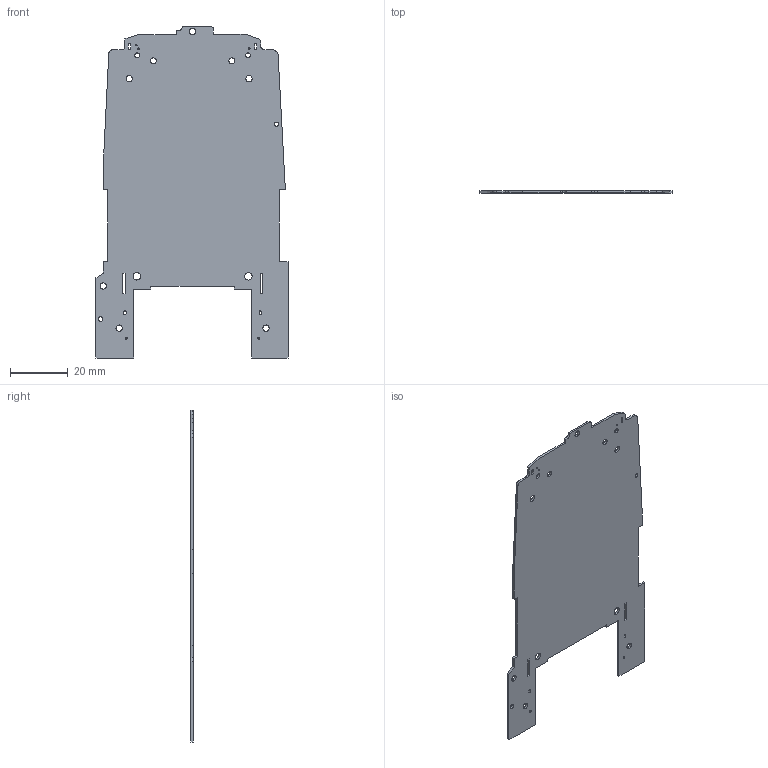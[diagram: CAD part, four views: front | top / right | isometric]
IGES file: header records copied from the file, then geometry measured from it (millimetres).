
Start section:  PTC IGES file: pcb_cf_1109_prt.igs
Global section: file name: pcb_cf_1109_prt.igs; native system: Pro/ENGINEER by Parametric Technology Corporation; preprocessor: 2000030; author: ECaille; organization: Unknown; date: 000803.092118; units: millimetre
Bounding box: 66.68 x 0.8 x 115.3 mm (x, y, z)
Surface area: 12207.7 mm2 (no closed solid volume)
Topology: 0 solids, 0 shells, 107 faces, 1002 edges, 1336 vertices
Faces by surface type: bspline 54, revolution 53
